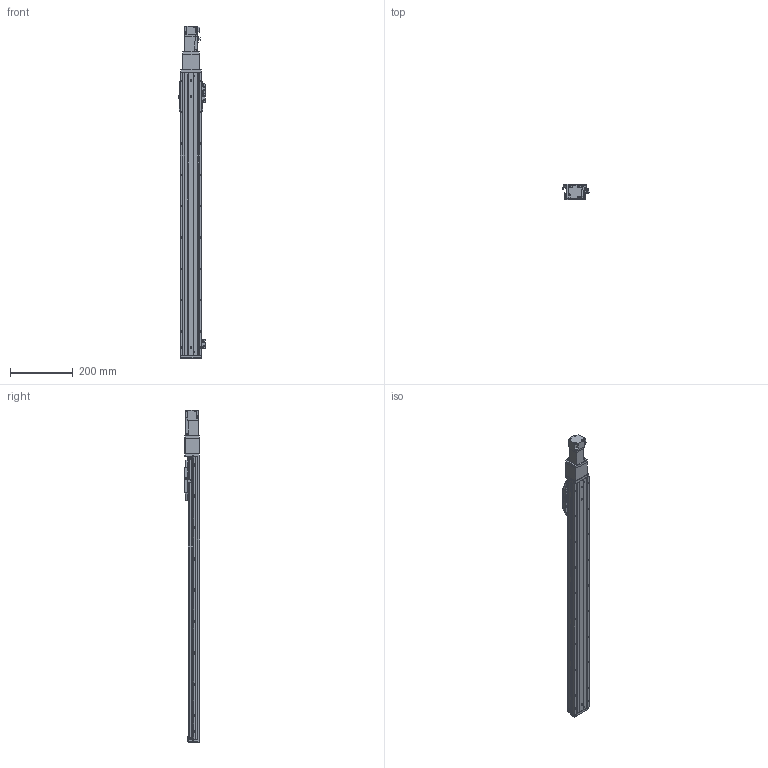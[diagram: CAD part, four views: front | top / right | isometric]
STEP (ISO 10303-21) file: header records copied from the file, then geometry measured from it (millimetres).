
FILE_DESCRIPTION (( 'STEP AP214' ), '1' );
FILE_NAME ('CTHA60-750-BC-M10-C4L.step', '2022-03-19T06:11:21', ( '微软用户' ), ( '微软中国' ), 'SwSTEP 2.0', 'SolidWorks 2020', '' );
FILE_SCHEMA (( 'AUTOMOTIVE_DESIGN' ));
Length unit declared in the file: millimetre
Products named in the file (19): GBT 70.1-M4×16; GBT 70.3-M3℅6; CTHA60-013; CTHA60-005; CTHA60-002; CTHA60-017; GBT77-2000 M3×3; CTHA60-016; CTHA60-001_900; CTHA60-006; GB¨uT 70.2-M3¡Á6_M3¡Á6; CTHA60-031; CTHA60-021; GBT 70.1-M3℅6; CTHA60-027; CTHA60-004; HG-KR13（三菱）; EE_SX911P_R; CTHA60-750-BC-M10-C4L
Assembly tree (57 placements, depth 2):
  CTHA60-750-BC-M10-C4L
    CTHA60-001_900
    CTHA60-004
    CTHA60-005
    GB¨uT 70.2-M3¡Á6_M3¡Á6  x10
    EE_SX911P_R  x3
    CTHA60-017  x3
    CTHA60-021  x2
    GBT 70.1-M4×16  x10
    GBT77-2000 M3×3  x6
    GBT 70.1-M3℅6  x6
    GBT 70.3-M3℅6  x6
    CTHA60-016  x2
    CTHA60-027
    CTHA60-013
    CTHA60-006
    HG-KR13（三菱）
    CTHA60-002
    CTHA60-031
Bounding box: 83.12 x 48 x 1058.6 mm (x, y, z)
Volume: 1671545.3 mm3; surface area: 463923.7 mm2
Topology: 59 solids, 59 shells, 2515 faces, 6021 edges, 3695 vertices
Faces by surface type: plane 1462, cylinder 567, cone 366, torus 96, sphere 24
Entity records: 41048 total; most frequent: CARTESIAN_POINT 6928, DIRECTION 6822, ORIENTED_EDGE 6622, EDGE_CURVE 3311, LINE 2442, VECTOR 2442, AXIS2_PLACEMENT_3D 2190, VERTEX_POINT 2092
